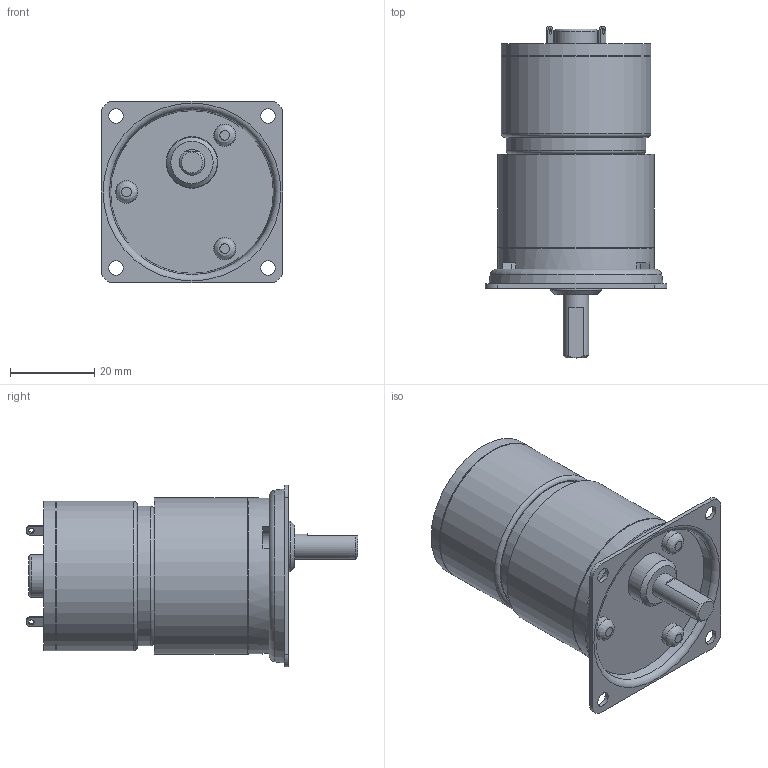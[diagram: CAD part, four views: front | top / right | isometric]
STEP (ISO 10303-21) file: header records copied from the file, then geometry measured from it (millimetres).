
FILE_DESCRIPTION((''),'2;1');
FILE_NAME('C:\Documents and Settings\SSEGAWA\デスクトップ\TP-3526A-PKS-4.STP','2013-07-09T14:42:04',('SSEGAWA'),(''),'Autodesk Inventor 2010','Autodesk Inventor 2010','');
FILE_SCHEMA(('CONFIG_CONTROL_DESIGN'));
Length unit declared in the file: millimetre
Products named in the file (5): tp_3526abcj_pks_4; pks_4; ks_4; □43; tp_3526a,b,c,j
Assembly tree (4 placements, depth 3):
  tp_3526abcj_pks_4
    pks_4
      ks_4
      □43
    tp_3526a,b,c,j
Bounding box: 43 x 78.6 x 43 mm (x, y, z)
Volume: 57686.6 mm3; surface area: 15819.5 mm2
Topology: 4 solids, 4 shells, 112 faces, 256 edges, 170 vertices
Faces by surface type: plane 47, cylinder 28, bspline 28, torus 5, cone 4
Full cylindrical faces by diameter (mm): 2 x1, 4 x1, 5.3 x3, 6 x1, 10 x2, 12 x1, 12.2 x1, 33 x1, 35 x1, 35.4 x2, 36.6 x1, 37 x2
Entity records: 3303 total; most frequent: CARTESIAN_POINT 1024, DIRECTION 465, ORIENTED_EDGE 348, AXIS2_PLACEMENT_3D 200, EDGE_LOOP 197, EDGE_CURVE 174, VERTEX_POINT 141, FACE_OUTER_BOUND 112
